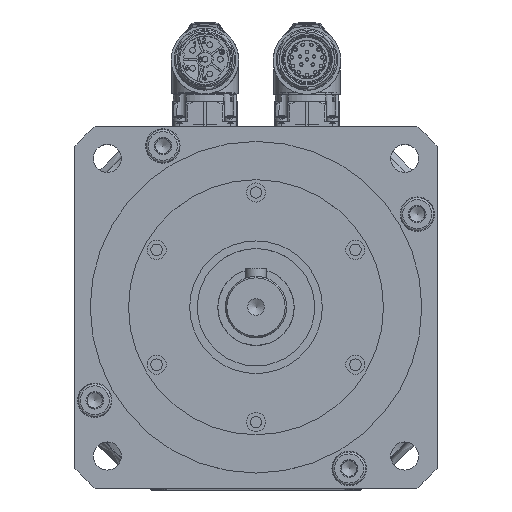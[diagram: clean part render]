
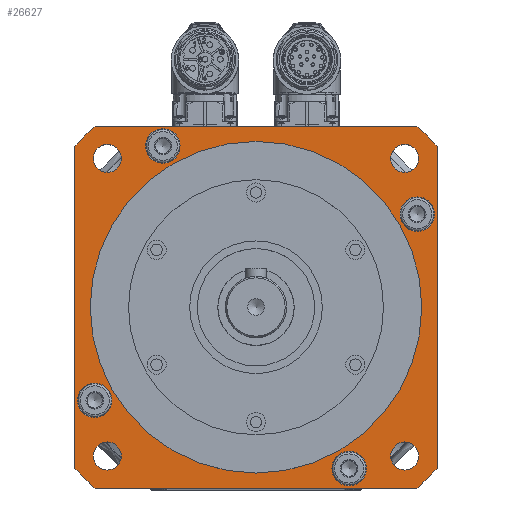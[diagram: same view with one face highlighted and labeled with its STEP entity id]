
A CAD part, top view. The second image highlights one B-rep face of the part: STEP entity #26627.
In plain terms, the highlighted planar face has unit normal (0, 0, 1).
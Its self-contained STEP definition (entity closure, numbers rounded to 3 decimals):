
#3072=LINE('',#54353,#4305);
#3076=LINE('',#54359,#4309);
#3077=LINE('',#54361,#4310);
#3078=LINE('',#54363,#4311);
#4305=VECTOR('',#36133,126.238);
#4309=VECTOR('',#36141,126.238);
#4310=VECTOR('',#36144,126.238);
#4311=VECTOR('',#36147,126.238);
#6576=FACE_BOUND('',#10184,.T.);
#6577=FACE_BOUND('',#10185,.T.);
#6578=FACE_BOUND('',#10186,.T.);
#6579=FACE_BOUND('',#10187,.T.);
#6580=FACE_BOUND('',#10188,.T.);
#6581=FACE_BOUND('',#10189,.T.);
#6582=FACE_BOUND('',#10190,.T.);
#6583=FACE_BOUND('',#10191,.T.);
#6584=FACE_BOUND('',#10192,.T.);
#6585=FACE_BOUND('',#10193,.T.);
#10184=EDGE_LOOP('',(#24516));
#10185=EDGE_LOOP('',(#24517));
#10186=EDGE_LOOP('',(#24518));
#10187=EDGE_LOOP('',(#24519));
#10188=EDGE_LOOP('',(#24520));
#10189=EDGE_LOOP('',(#24521));
#10190=EDGE_LOOP('',(#24522));
#10191=EDGE_LOOP('',(#24523));
#10192=EDGE_LOOP('',(#24524));
#10193=EDGE_LOOP('',(#24525,#24526,#24527,#24528,#24529,#24530,#24531,#24532));
#11372=CIRCLE('',#29353,5.5);
#11376=CIRCLE('',#29359,6.75);
#11378=CIRCLE('',#29363,5.5);
#11382=CIRCLE('',#29369,6.75);
#11384=CIRCLE('',#29373,5.5);
#11388=CIRCLE('',#29379,6.75);
#11392=CIRCLE('',#29386,6.75);
#11394=CIRCLE('',#29390,5.5);
#11403=CIRCLE('',#29405,65.);
#11404=CIRCLE('',#29408,95.);
#11406=CIRCLE('',#29411,95.);
#11409=CIRCLE('',#29415,95.);
#11410=CIRCLE('',#29417,95.);
#13904=VERTEX_POINT('',#54229);
#13908=VERTEX_POINT('',#54239);
#13910=VERTEX_POINT('',#54245);
#13914=VERTEX_POINT('',#54255);
#13916=VERTEX_POINT('',#54261);
#13920=VERTEX_POINT('',#54271);
#13924=VERTEX_POINT('',#54282);
#13926=VERTEX_POINT('',#54288);
#13935=VERTEX_POINT('',#54312);
#13936=VERTEX_POINT('',#54316);
#13938=VERTEX_POINT('',#54319);
#13940=VERTEX_POINT('',#54325);
#13942=VERTEX_POINT('',#54328);
#13945=VERTEX_POINT('',#54335);
#13947=VERTEX_POINT('',#54339);
#13948=VERTEX_POINT('',#54343);
#13950=VERTEX_POINT('',#54346);
#17423=EDGE_CURVE('',#13904,#13904,#11372,.T.);
#17427=EDGE_CURVE('',#13908,#13908,#11376,.T.);
#17429=EDGE_CURVE('',#13910,#13910,#11378,.T.);
#17433=EDGE_CURVE('',#13914,#13914,#11382,.T.);
#17435=EDGE_CURVE('',#13916,#13916,#11384,.T.);
#17439=EDGE_CURVE('',#13920,#13920,#11388,.T.);
#17443=EDGE_CURVE('',#13924,#13924,#11392,.T.);
#17445=EDGE_CURVE('',#13926,#13926,#11394,.T.);
#17454=EDGE_CURVE('',#13935,#13935,#11403,.T.);
#17456=EDGE_CURVE('',#13938,#13936,#11404,.T.);
#17460=EDGE_CURVE('',#13942,#13940,#11406,.T.);
#17466=EDGE_CURVE('',#13945,#13947,#11409,.T.);
#17468=EDGE_CURVE('',#13950,#13948,#11410,.T.);
#17472=EDGE_CURVE('',#13948,#13945,#3072,.T.);
#17476=EDGE_CURVE('',#13940,#13950,#3076,.T.);
#17477=EDGE_CURVE('',#13936,#13942,#3077,.T.);
#17478=EDGE_CURVE('',#13947,#13938,#3078,.T.);
#24516=ORIENTED_EDGE('',*,*,#17423,.T.);
#24517=ORIENTED_EDGE('',*,*,#17427,.T.);
#24518=ORIENTED_EDGE('',*,*,#17429,.T.);
#24519=ORIENTED_EDGE('',*,*,#17433,.T.);
#24520=ORIENTED_EDGE('',*,*,#17435,.T.);
#24521=ORIENTED_EDGE('',*,*,#17439,.T.);
#24522=ORIENTED_EDGE('',*,*,#17443,.T.);
#24523=ORIENTED_EDGE('',*,*,#17445,.T.);
#24524=ORIENTED_EDGE('',*,*,#17454,.T.);
#24525=ORIENTED_EDGE('',*,*,#17468,.T.);
#24526=ORIENTED_EDGE('',*,*,#17472,.T.);
#24527=ORIENTED_EDGE('',*,*,#17466,.T.);
#24528=ORIENTED_EDGE('',*,*,#17478,.T.);
#24529=ORIENTED_EDGE('',*,*,#17456,.T.);
#24530=ORIENTED_EDGE('',*,*,#17477,.T.);
#24531=ORIENTED_EDGE('',*,*,#17460,.T.);
#24532=ORIENTED_EDGE('',*,*,#17476,.T.);
#25073=PLANE('',#29424);
#26627=ADVANCED_FACE('',(#6576,#6577,#6578,#6579,#6580,#6581,#6582,#6583,
#6584,#6585),#25073,.T.);
#29353=AXIS2_PLACEMENT_3D('',#54230,#35990,#35991);
#29359=AXIS2_PLACEMENT_3D('',#54240,#36002,#36003);
#29363=AXIS2_PLACEMENT_3D('',#54246,#36010,#36011);
#29369=AXIS2_PLACEMENT_3D('',#54256,#36022,#36023);
#29373=AXIS2_PLACEMENT_3D('',#54262,#36030,#36031);
#29379=AXIS2_PLACEMENT_3D('',#54272,#36042,#36043);
#29386=AXIS2_PLACEMENT_3D('',#54283,#36056,#36057);
#29390=AXIS2_PLACEMENT_3D('',#54289,#36064,#36065);
#29405=AXIS2_PLACEMENT_3D('',#54313,#36094,#36095);
#29408=AXIS2_PLACEMENT_3D('',#54320,#36101,#36102);
#29411=AXIS2_PLACEMENT_3D('',#54329,#36109,#36110);
#29415=AXIS2_PLACEMENT_3D('',#54341,#36120,#36121);
#29417=AXIS2_PLACEMENT_3D('',#54347,#36125,#36126);
#29424=AXIS2_PLACEMENT_3D('',#54364,#36148,#36149);
#35990=DIRECTION('center_axis',(0.,0.,-1.));
#35991=DIRECTION('ref_axis',(0.,1.,0.));
#36002=DIRECTION('center_axis',(0.,0.,-1.));
#36003=DIRECTION('ref_axis',(0.,-1.,0.));
#36010=DIRECTION('center_axis',(0.,0.,-1.));
#36011=DIRECTION('ref_axis',(1.,0.,0.));
#36022=DIRECTION('center_axis',(0.,0.,-1.));
#36023=DIRECTION('ref_axis',(-1.,0.,0.));
#36030=DIRECTION('center_axis',(0.,0.,-1.));
#36031=DIRECTION('ref_axis',(0.,-1.,0.));
#36042=DIRECTION('center_axis',(0.,0.,-1.));
#36043=DIRECTION('ref_axis',(0.,1.,0.));
#36056=DIRECTION('center_axis',(0.,0.,-1.));
#36057=DIRECTION('ref_axis',(1.,0.,0.));
#36064=DIRECTION('center_axis',(0.,0.,-1.));
#36065=DIRECTION('ref_axis',(-1.,0.,0.));
#36094=DIRECTION('center_axis',(0.,0.,-1.));
#36095=DIRECTION('ref_axis',(-1.,0.,0.));
#36101=DIRECTION('center_axis',(0.,0.,1.));
#36102=DIRECTION('ref_axis',(-1.,0.,0.));
#36109=DIRECTION('center_axis',(0.,0.,1.));
#36110=DIRECTION('ref_axis',(-1.,0.,0.));
#36120=DIRECTION('center_axis',(0.,0.,1.));
#36121=DIRECTION('ref_axis',(-1.,0.,0.));
#36125=DIRECTION('center_axis',(0.,0.,1.));
#36126=DIRECTION('ref_axis',(-1.,0.,0.));
#36133=DIRECTION('',(0.,-1.,0.));
#36141=DIRECTION('',(-1.,0.,0.));
#36144=DIRECTION('',(0.,1.,0.));
#36147=DIRECTION('',(1.,0.,0.));
#36148=DIRECTION('center_axis',(0.,0.,1.));
#36149=DIRECTION('ref_axis',(1.,0.,0.));
#54229=CARTESIAN_POINT('',(58.336,52.836,15.));
#54230=CARTESIAN_POINT('Origin',(58.336,58.336,15.));
#54239=CARTESIAN_POINT('',(36.5,-69.97,15.));
#54240=CARTESIAN_POINT('Origin',(36.5,-63.22,15.));
#54245=CARTESIAN_POINT('',(52.836,-58.336,15.));
#54246=CARTESIAN_POINT('Origin',(58.336,-58.336,15.));
#54255=CARTESIAN_POINT('',(-69.97,-36.5,15.));
#54256=CARTESIAN_POINT('Origin',(-63.22,-36.5,15.));
#54261=CARTESIAN_POINT('',(-58.336,-52.836,15.));
#54262=CARTESIAN_POINT('Origin',(-58.336,-58.336,15.));
#54271=CARTESIAN_POINT('',(-36.5,69.97,15.));
#54272=CARTESIAN_POINT('Origin',(-36.5,63.22,15.));
#54282=CARTESIAN_POINT('',(69.97,36.5,15.));
#54283=CARTESIAN_POINT('Origin',(63.22,36.5,15.));
#54288=CARTESIAN_POINT('',(-52.836,58.336,15.));
#54289=CARTESIAN_POINT('Origin',(-58.336,58.336,15.));
#54312=CARTESIAN_POINT('',(65.,0.,15.));
#54313=CARTESIAN_POINT('Origin',(0.,0.,15.));
#54316=CARTESIAN_POINT('',(71.,-63.119,15.));
#54319=CARTESIAN_POINT('',(63.119,-71.,15.));
#54320=CARTESIAN_POINT('Origin',(0.,0.,15.));
#54325=CARTESIAN_POINT('',(63.119,71.,15.));
#54328=CARTESIAN_POINT('',(71.,63.119,15.));
#54329=CARTESIAN_POINT('Origin',(0.,0.,15.));
#54335=CARTESIAN_POINT('',(-71.,-63.119,15.));
#54339=CARTESIAN_POINT('',(-63.119,-71.,15.));
#54341=CARTESIAN_POINT('Origin',(0.,0.,15.));
#54343=CARTESIAN_POINT('',(-71.,63.119,15.));
#54346=CARTESIAN_POINT('',(-63.119,71.,15.));
#54347=CARTESIAN_POINT('Origin',(0.,0.,15.));
#54353=CARTESIAN_POINT('',(-71.,71.,15.));
#54359=CARTESIAN_POINT('',(71.,71.,15.));
#54361=CARTESIAN_POINT('',(71.,-71.,15.));
#54363=CARTESIAN_POINT('',(-71.,-71.,15.));
#54364=CARTESIAN_POINT('Origin',(0.,0.,15.));
